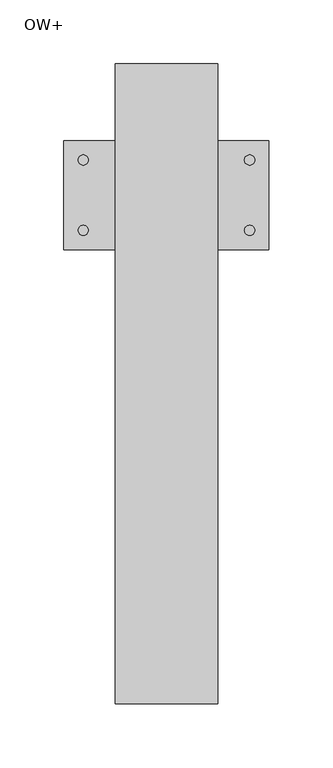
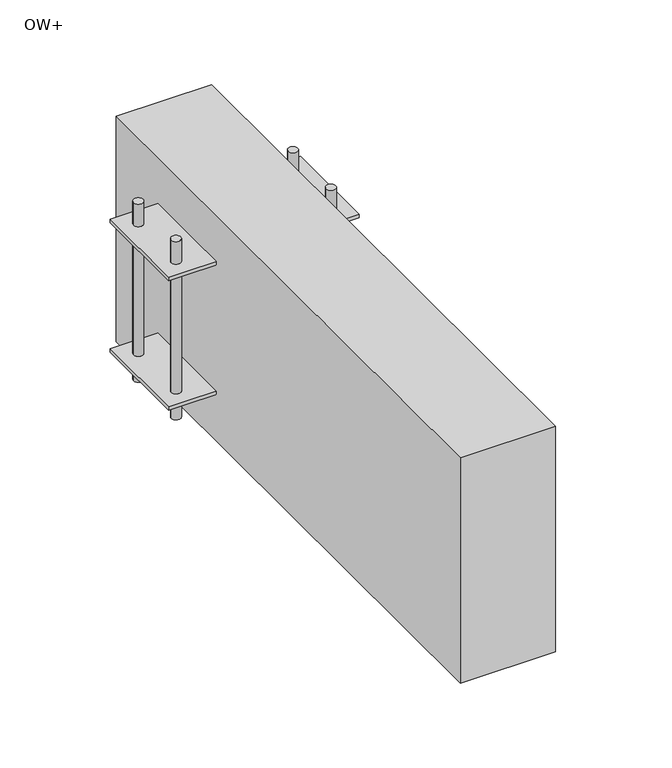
"""IFC4 building model written with IfcOpenShell, lengths in millimetres: fastener geometry, ACINOXplus_Typenreihe_UW-OW : OW+."""

from ifc_helpers import new_model, si_unit, frame, origin, place, context, project, spatial, polyline, circle_curve, outline, extrude, source, transform, mapped, element, save
from ifc_brep_helpers import plane_surface, cylinder_surface, advanced_brep


def ow_64ee8b05(model_context):
    return source(origin(), model_context, "Body", "SolidModel", [
        advanced_brep(
        [(80.0, 190.0, -41.0), (-80.0, 190.0, -41.0), (-80.0, 105.0, -41.0), (80.0, 105.0, -41.0), (-61.0, 175.0, -41.0), (-69.0, 175.0, -41.0), (69.0, 175.0, -41.0), (61.0, 175.0, -41.0), (-61.0, 120.0, -41.0), (-69.0, 120.0, -41.0), (69.0, 120.0, -41.0), (61.0, 120.0, -41.0), (80.0, 190.0, -44.0), (80.0, 105.0, -44.0), (-80.0, 105.0, -44.0), (-80.0, 190.0, -44.0), (-69.0, 175.0, -44.0), (-61.0, 175.0, -44.0), (61.0, 175.0, -44.0), (69.0, 175.0, -44.0), (-69.0, 120.0, -44.0), (-61.0, 120.0, -44.0), (61.0, 120.0, -44.0), (69.0, 120.0, -44.0), (-69.0, 175.0, -21.0), (-61.0, 175.0, -21.0), (61.0, 175.0, -21.0), (69.0, 175.0, -21.0), (-69.0, 120.0, -21.0), (-61.0, 120.0, -21.0), (61.0, 120.0, -21.0), (69.0, 120.0, -21.0), (-69.0, 175.0, -179.0), (-61.0, 175.0, -179.0), (61.0, 175.0, -179.0), (69.0, 175.0, -179.0), (-69.0, 120.0, -179.0), (-61.0, 120.0, -179.0), (61.0, 120.0, -179.0), (69.0, 120.0, -179.0), (-69.0, 175.0, -156.0), (-61.0, 175.0, -156.0), (-61.0, 175.0, -159.0), (-69.0, 175.0, -159.0), (61.0, 175.0, -156.0), (69.0, 175.0, -156.0), (69.0, 175.0, -159.0), (61.0, 175.0, -159.0), (-69.0, 120.0, -156.0), (-61.0, 120.0, -156.0), (-61.0, 120.0, -159.0), (-69.0, 120.0, -159.0), (61.0, 120.0, -156.0), (69.0, 120.0, -156.0), (69.0, 120.0, -159.0), (61.0, 120.0, -159.0), (80.0, 190.0, -156.0), (-80.0, 190.0, -156.0), (-80.0, 105.0, -156.0), (80.0, 105.0, -156.0), (80.0, 190.0, -159.0), (80.0, 105.0, -159.0), (-80.0, 105.0, -159.0), (-80.0, 190.0, -159.0)],
        [
            (0, 1),
            (1, 2),
            (2, 3),
            (3, 0),
            (4, 5, circle_curve(frame((-65.0, 175.0, -41.0), z_axis=(0.0, 0.0, -1.0), x_axis=(1.0, 0.0, 0.0)), 4.0)),
            (5, 4, circle_curve(frame((-65.0, 175.0, -41.0), z_axis=(0.0, 0.0, -1.0), x_axis=(1.0, 0.0, 0.0)), 4.0)),
            (6, 7, circle_curve(frame((65.0, 175.0, -41.0), z_axis=(0.0, 0.0, -1.0), x_axis=(1.0, 0.0, 0.0)), 4.0)),
            (7, 6, circle_curve(frame((65.0, 175.0, -41.0), z_axis=(0.0, 0.0, -1.0), x_axis=(1.0, 0.0, 0.0)), 4.0)),
            (8, 9, circle_curve(frame((-65.0, 120.0, -41.0), z_axis=(0.0, 0.0, -1.0), x_axis=(1.0, 0.0, 0.0)), 4.0)),
            (9, 8, circle_curve(frame((-65.0, 120.0, -41.0), z_axis=(0.0, 0.0, -1.0), x_axis=(1.0, 0.0, 0.0)), 4.0)),
            (10, 11, circle_curve(frame((65.0, 120.0, -41.0), z_axis=(0.0, 0.0, -1.0), x_axis=(1.0, 0.0, 0.0)), 4.0)),
            (11, 10, circle_curve(frame((65.0, 120.0, -41.0), z_axis=(0.0, 0.0, -1.0), x_axis=(1.0, 0.0, 0.0)), 4.0)),
            (12, 13),
            (13, 14),
            (14, 15),
            (15, 12),
            (16, 17, circle_curve(frame((-65.0, 175.0, -44.0), z_axis=(0.0, 0.0, 1.0), x_axis=(1.0, 0.0, 0.0)), 4.0)),
            (17, 16, circle_curve(frame((-65.0, 175.0, -44.0), z_axis=(0.0, 0.0, 1.0), x_axis=(1.0, 0.0, 0.0)), 4.0)),
            (18, 19, circle_curve(frame((65.0, 175.0, -44.0), z_axis=(0.0, 0.0, 1.0), x_axis=(1.0, 0.0, 0.0)), 4.0)),
            (19, 18, circle_curve(frame((65.0, 175.0, -44.0), z_axis=(0.0, 0.0, 1.0), x_axis=(1.0, 0.0, 0.0)), 4.0)),
            (20, 21, circle_curve(frame((-65.0, 120.0, -44.0), z_axis=(0.0, 0.0, 1.0), x_axis=(1.0, 0.0, 0.0)), 4.0)),
            (21, 20, circle_curve(frame((-65.0, 120.0, -44.0), z_axis=(0.0, 0.0, 1.0), x_axis=(1.0, 0.0, 0.0)), 4.0)),
            (22, 23, circle_curve(frame((65.0, 120.0, -44.0), z_axis=(0.0, 0.0, 1.0), x_axis=(1.0, 0.0, 0.0)), 4.0)),
            (23, 22, circle_curve(frame((65.0, 120.0, -44.0), z_axis=(0.0, 0.0, 1.0), x_axis=(1.0, 0.0, 0.0)), 4.0)),
            (0, 12),
            (15, 1),
            (14, 2),
            (13, 3),
            (24, 25, circle_curve(frame((-65.0, 175.0, -21.0), z_axis=(0.0, 0.0, 1.0), x_axis=(1.0, 0.0, 0.0)), 4.0)),
            (25, 24, circle_curve(frame((-65.0, 175.0, -21.0), z_axis=(0.0, 0.0, 1.0), x_axis=(1.0, 0.0, 0.0)), 4.0)),
            (26, 27, circle_curve(frame((65.0, 175.0, -21.0), z_axis=(0.0, 0.0, 1.0), x_axis=(1.0, 0.0, 0.0)), 4.0)),
            (27, 26, circle_curve(frame((65.0, 175.0, -21.0), z_axis=(0.0, 0.0, 1.0), x_axis=(1.0, 0.0, 0.0)), 4.0)),
            (28, 29, circle_curve(frame((-65.0, 120.0, -21.0), z_axis=(0.0, 0.0, 1.0), x_axis=(1.0, 0.0, 0.0)), 4.0)),
            (29, 28, circle_curve(frame((-65.0, 120.0, -21.0), z_axis=(0.0, 0.0, 1.0), x_axis=(1.0, 0.0, 0.0)), 4.0)),
            (30, 31, circle_curve(frame((65.0, 120.0, -21.0), z_axis=(0.0, 0.0, 1.0), x_axis=(1.0, 0.0, 0.0)), 4.0)),
            (31, 30, circle_curve(frame((65.0, 120.0, -21.0), z_axis=(0.0, 0.0, 1.0), x_axis=(1.0, 0.0, 0.0)), 4.0)),
            (32, 33, circle_curve(frame((-65.0, 175.0, -179.0), z_axis=(0.0, 0.0, -1.0), x_axis=(1.0, 0.0, 0.0)), 4.0)),
            (33, 32, circle_curve(frame((-65.0, 175.0, -179.0), z_axis=(0.0, 0.0, -1.0), x_axis=(1.0, 0.0, 0.0)), 4.0)),
            (34, 35, circle_curve(frame((65.0, 175.0, -179.0), z_axis=(0.0, 0.0, -1.0), x_axis=(1.0, 0.0, 0.0)), 4.0)),
            (35, 34, circle_curve(frame((65.0, 175.0, -179.0), z_axis=(0.0, 0.0, -1.0), x_axis=(1.0, 0.0, 0.0)), 4.0)),
            (36, 37, circle_curve(frame((-65.0, 120.0, -179.0), z_axis=(0.0, 0.0, -1.0), x_axis=(1.0, 0.0, 0.0)), 4.0)),
            (37, 36, circle_curve(frame((-65.0, 120.0, -179.0), z_axis=(0.0, 0.0, -1.0), x_axis=(1.0, 0.0, 0.0)), 4.0)),
            (38, 39, circle_curve(frame((65.0, 120.0, -179.0), z_axis=(0.0, 0.0, -1.0), x_axis=(1.0, 0.0, 0.0)), 4.0)),
            (39, 38, circle_curve(frame((65.0, 120.0, -179.0), z_axis=(0.0, 0.0, -1.0), x_axis=(1.0, 0.0, 0.0)), 4.0)),
            (16, 40),
            (40, 41, circle_curve(frame((-65.0, 175.0, -156.0), z_axis=(0.0, 0.0, 1.0), x_axis=(1.0, 0.0, 0.0)), 4.0)),
            (41, 17),
            (24, 5),
            (4, 25),
            (33, 42),
            (42, 43, circle_curve(frame((-65.0, 175.0, -159.0), z_axis=(0.0, 0.0, -1.0), x_axis=(1.0, 0.0, 0.0)), 4.0)),
            (43, 32),
            (41, 40, circle_curve(frame((-65.0, 175.0, -156.0), z_axis=(0.0, 0.0, 1.0), x_axis=(1.0, 0.0, 0.0)), 4.0)),
            (43, 42, circle_curve(frame((-65.0, 175.0, -159.0), z_axis=(0.0, 0.0, -1.0), x_axis=(1.0, 0.0, 0.0)), 4.0)),
            (18, 44),
            (44, 45, circle_curve(frame((65.0, 175.0, -156.0), z_axis=(0.0, 0.0, 1.0), x_axis=(1.0, 0.0, 0.0)), 4.0)),
            (45, 19),
            (26, 7),
            (6, 27),
            (35, 46),
            (46, 47, circle_curve(frame((65.0, 175.0, -159.0), z_axis=(0.0, 0.0, -1.0), x_axis=(1.0, 0.0, 0.0)), 4.0)),
            (47, 34),
            (45, 44, circle_curve(frame((65.0, 175.0, -156.0), z_axis=(0.0, 0.0, 1.0), x_axis=(1.0, 0.0, 0.0)), 4.0)),
            (47, 46, circle_curve(frame((65.0, 175.0, -159.0), z_axis=(0.0, 0.0, -1.0), x_axis=(1.0, 0.0, 0.0)), 4.0)),
            (20, 48),
            (48, 49, circle_curve(frame((-65.0, 120.0, -156.0), z_axis=(0.0, 0.0, 1.0), x_axis=(1.0, 0.0, 0.0)), 4.0)),
            (49, 21),
            (28, 9),
            (8, 29),
            (37, 50),
            (50, 51, circle_curve(frame((-65.0, 120.0, -159.0), z_axis=(0.0, 0.0, -1.0), x_axis=(1.0, 0.0, 0.0)), 4.0)),
            (51, 36),
            (49, 48, circle_curve(frame((-65.0, 120.0, -156.0), z_axis=(0.0, 0.0, 1.0), x_axis=(1.0, 0.0, 0.0)), 4.0)),
            (51, 50, circle_curve(frame((-65.0, 120.0, -159.0), z_axis=(0.0, 0.0, -1.0), x_axis=(1.0, 0.0, 0.0)), 4.0)),
            (22, 52),
            (52, 53, circle_curve(frame((65.0, 120.0, -156.0), z_axis=(0.0, 0.0, 1.0), x_axis=(1.0, 0.0, 0.0)), 4.0)),
            (53, 23),
            (30, 11),
            (10, 31),
            (39, 54),
            (54, 55, circle_curve(frame((65.0, 120.0, -159.0), z_axis=(0.0, 0.0, -1.0), x_axis=(1.0, 0.0, 0.0)), 4.0)),
            (55, 38),
            (53, 52, circle_curve(frame((65.0, 120.0, -156.0), z_axis=(0.0, 0.0, 1.0), x_axis=(1.0, 0.0, 0.0)), 4.0)),
            (55, 54, circle_curve(frame((65.0, 120.0, -159.0), z_axis=(0.0, 0.0, -1.0), x_axis=(1.0, 0.0, 0.0)), 4.0)),
            (56, 57),
            (57, 58),
            (58, 59),
            (59, 56),
            (60, 61),
            (61, 62),
            (62, 63),
            (63, 60),
            (56, 60),
            (63, 57),
            (62, 58),
            (61, 59),
        ],
        [
            plane_surface(frame((-80.0, 190.0, -41.0), z_axis=(0.0, 0.0, 1.0), x_axis=(-1.0, 0.0, 0.0))),
            plane_surface(frame((-80.0, 190.0, -44.0), z_axis=(0.0, 0.0, -1.0), x_axis=(1.0, 0.0, 0.0))),
            plane_surface(frame((80.0, 190.0, -41.0), z_axis=(0.0, 1.0, 0.0), x_axis=(0.0, 0.0, -1.0))),
            plane_surface(frame((-80.0, 190.0, -41.0), z_axis=(-1.0, 0.0, 0.0), x_axis=(0.0, 0.0, -1.0))),
            plane_surface(frame((-80.0, 105.0, -41.0), z_axis=(0.0, -1.0, 0.0), x_axis=(0.0, 0.0, -1.0))),
            plane_surface(frame((80.0, 105.0, -41.0), z_axis=(1.0, 0.0, 0.0), x_axis=(0.0, 0.0, -1.0))),
            plane_surface(frame((-61.0, 175.0, -21.0), z_axis=(0.0, 0.0, 1.0), x_axis=(0.0, 1.0, 0.0))),
            plane_surface(frame((-61.0, 175.0, -179.0), z_axis=(0.0, 0.0, -1.0), x_axis=(0.0, -1.0, 0.0))),
            cylinder_surface(frame((-65.0, 175.0, -179.0), z_axis=(0.0, 0.0, 1.0), x_axis=(1.0, 0.0, 0.0)), 4.0),
            cylinder_surface(frame((65.0, 175.0, -162.5), z_axis=(0.0, 0.0, 1.0), x_axis=(1.0, 0.0, 0.0)), 4.0),
            cylinder_surface(frame((-65.0, 120.0, -162.5), z_axis=(0.0, 0.0, 1.0), x_axis=(1.0, 0.0, 0.0)), 4.0),
            cylinder_surface(frame((65.0, 120.0, -162.5), z_axis=(0.0, 0.0, 1.0), x_axis=(1.0, 0.0, 0.0)), 4.0),
            plane_surface(frame((-80.0, 190.0, -156.0), z_axis=(0.0, 0.0, 1.0), x_axis=(-1.0, 0.0, 0.0))),
            plane_surface(frame((-80.0, 190.0, -159.0), z_axis=(0.0, 0.0, -1.0), x_axis=(1.0, 0.0, 0.0))),
            plane_surface(frame((80.0, 190.0, -156.0), z_axis=(0.0, 1.0, 0.0), x_axis=(0.0, 0.0, -1.0))),
            plane_surface(frame((-80.0, 190.0, -156.0), z_axis=(-1.0, 0.0, 0.0), x_axis=(0.0, 0.0, -1.0))),
            plane_surface(frame((-80.0, 105.0, -156.0), z_axis=(0.0, -1.0, 0.0), x_axis=(0.0, 0.0, -1.0))),
            plane_surface(frame((80.0, 105.0, -156.0), z_axis=(1.0, 0.0, 0.0), x_axis=(0.0, 0.0, -1.0))),
        ],
        [
            (0, [[1, 2, 3, 4], [5, 6], [7, 8], [9, 10], [11, 12]]),
            (1, [[13, 14, 15, 16], [17, 18], [19, 20], [21, 22], [23, 24]]),
            (2, [[-1, 25, -16, 26]]),
            (3, [[-2, -26, -15, 27]]),
            (4, [[-3, -27, -14, 28]]),
            (5, [[-4, -28, -13, -25]]),
            (6, [[29, 30]]),
            (6, [[31, 32]]),
            (6, [[33, 34]]),
            (6, [[35, 36]]),
            (7, [[37, 38]]),
            (7, [[39, 40]]),
            (7, [[41, 42]]),
            (7, [[43, 44]]),
            (8, [[-17, 45, 46, 47]]),
            (8, [[-29, 48, -5, 49]]),
            (8, [[-38, 50, 51, 52]]),
            (8, [[-18, -47, 53, -45]]),
            (8, [[-30, -49, -6, -48]]),
            (8, [[-37, -52, 54, -50]]),
            (9, [[-19, 55, 56, 57]]),
            (9, [[-31, 58, -7, 59]]),
            (9, [[-40, 60, 61, 62]]),
            (9, [[-20, -57, 63, -55]]),
            (9, [[-32, -59, -8, -58]]),
            (9, [[-39, -62, 64, -60]]),
            (10, [[-21, 65, 66, 67]]),
            (10, [[-33, 68, -9, 69]]),
            (10, [[-42, 70, 71, 72]]),
            (10, [[-22, -67, 73, -65]]),
            (10, [[-34, -69, -10, -68]]),
            (10, [[-41, -72, 74, -70]]),
            (11, [[-23, 75, 76, 77]]),
            (11, [[-35, 78, -11, 79]]),
            (11, [[-44, 80, 81, 82]]),
            (11, [[-24, -77, 83, -75]]),
            (11, [[-36, -79, -12, -78]]),
            (11, [[-43, -82, 84, -80]]),
            (12, [[85, 86, 87, 88], [-46, -53], [-56, -63], [-66, -73], [-76, -83]]),
            (13, [[89, 90, 91, 92], [-51, -54], [-61, -64], [-71, -74], [-81, -84]]),
            (14, [[-85, 93, -92, 94]]),
            (15, [[-86, -94, -91, 95]]),
            (16, [[-87, -95, -90, 96]]),
            (17, [[-88, -96, -89, -93]]),
        ],
    ),
        extrude(outline(polyline([(40.0, 250.0), (40.0, -250.0), (-40.0, -250.0), (-40.0, 250.0), (40.0, 250.0)])), frame((0.0, 0.0, -200.0), z_axis=(0.0, 0.0, 1.0), x_axis=(1.0, 0.0, 0.0)), (0.0, 0.0, 1.0), 200.0),
    ])


if __name__ == "__main__":
    model = new_model("IFC4")
    model_context = context("Model", 3, world=origin())
    ifc_project = project(units=[si_unit("LENGTHUNIT", "METRE", prefix="MILLI")], contexts=[model_context])
    site = spatial("IfcSite", under=ifc_project)
    building = spatial("IfcBuilding", under=site)
    placement = place(None, origin())
    ow_shape = ow_64ee8b05(model_context)
    element("IfcFastener", 1, ObjectType="ACINOXplus_Typenreihe_UW-OW : OW+", at=placement, inside=building, context=model_context, shape_type="MappedRepresentation", body=[
        mapped(ow_shape, transform((0.0, 0.0, 0.0), x_axis=(1.0, 0.0, 0.0), y_axis=(0.0, 1.0, 0.0), z_axis=(0.0, 0.0, 1.0))),
    ])
    save(model, "model.ifc")
